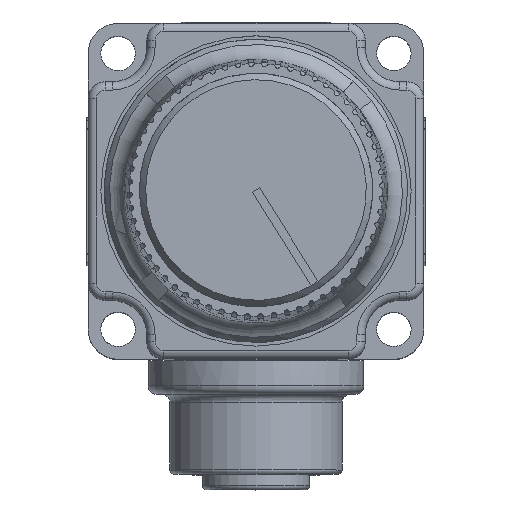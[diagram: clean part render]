
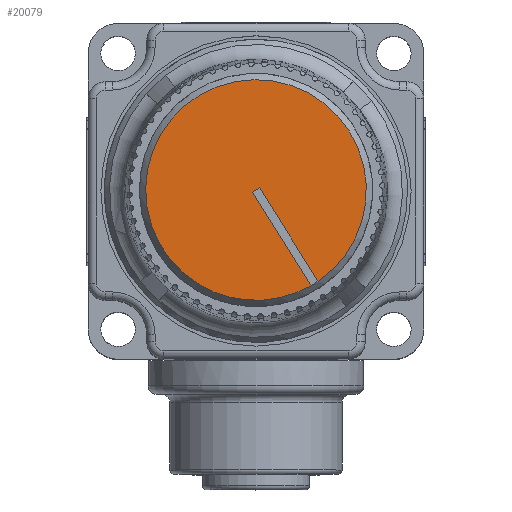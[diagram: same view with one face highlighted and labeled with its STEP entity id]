
A CAD part, top view. The second image highlights one B-rep face of the part: STEP entity #20079.
In plain terms, the highlighted planar face has unit normal (0, 0, 1).
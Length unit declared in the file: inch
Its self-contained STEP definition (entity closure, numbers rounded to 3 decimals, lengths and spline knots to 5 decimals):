
#1189=PLANE('',#21999);
#2077=FACE_OUTER_BOUND('',#3261,.T.);
#3261=EDGE_LOOP('',(#15586,#15587,#15588,#15589,#15590));
#4320=CIRCLE('',#21995,0.4);
#4321=CIRCLE('',#21996,0.4);
#5362=LINE('',#37110,#6782);
#5367=LINE('',#37129,#6787);
#5370=LINE('',#37134,#6790);
#6782=VECTOR('',#26306,0.3937);
#6787=VECTOR('',#26317,0.3937);
#6790=VECTOR('',#26322,0.3937);
#8602=VERTEX_POINT('',#37108);
#8603=VERTEX_POINT('',#37109);
#8606=VERTEX_POINT('',#37122);
#8608=VERTEX_POINT('',#37128);
#8610=VERTEX_POINT('',#37138);
#11040=EDGE_CURVE('',#8602,#8603,#5362,.T.);
#11047=EDGE_CURVE('',#8608,#8606,#5367,.T.);
#11050=EDGE_CURVE('',#8603,#8608,#5370,.T.);
#11052=EDGE_CURVE('',#8606,#8610,#4320,.T.);
#11053=EDGE_CURVE('',#8610,#8602,#4321,.T.);
#15586=ORIENTED_EDGE('',*,*,#11047,.T.);
#15587=ORIENTED_EDGE('',*,*,#11052,.T.);
#15588=ORIENTED_EDGE('',*,*,#11053,.T.);
#15589=ORIENTED_EDGE('',*,*,#11040,.T.);
#15590=ORIENTED_EDGE('',*,*,#11050,.T.);
#20079=ADVANCED_FACE('',(#2077),#1189,.T.);
#21995=AXIS2_PLACEMENT_3D('',#37139,#26328,#26329);
#21996=AXIS2_PLACEMENT_3D('',#37140,#26330,#26331);
#21999=AXIS2_PLACEMENT_3D('',#37146,#26337,#26338);
#26306=DIRECTION('',(-0.532,0.847,0.));
#26317=DIRECTION('',(0.532,-0.847,0.));
#26322=DIRECTION('',(0.847,0.532,0.));
#26328=DIRECTION('center_axis',(0.,0.,1.));
#26329=DIRECTION('ref_axis',(0.847,0.532,0.));
#26330=DIRECTION('center_axis',(0.,0.,1.));
#26331=DIRECTION('ref_axis',(0.847,0.532,0.));
#26337=DIRECTION('center_axis',(0.,0.,1.));
#26338=DIRECTION('ref_axis',(1.,0.,0.));
#37108=CARTESIAN_POINT('',(-2.40782,0.80932,2.50719));
#37109=CARTESIAN_POINT('',(-2.62031,1.14788,2.50719));
#37110=CARTESIAN_POINT('',(-2.40782,0.80932,2.50719));
#37122=CARTESIAN_POINT('',(-2.38241,0.82527,2.50719));
#37128=CARTESIAN_POINT('',(-2.5949,1.16383,2.50719));
#37129=CARTESIAN_POINT('',(-2.5949,1.16383,2.50719));
#37134=CARTESIAN_POINT('',(-2.62031,1.14788,2.50719));
#37138=CARTESIAN_POINT('',(-2.75976,0.78592,2.50719));
#37139=CARTESIAN_POINT('Origin',(-2.6076,1.15585,2.50719));
#37140=CARTESIAN_POINT('Origin',(-2.6076,1.15585,2.50719));
#37146=CARTESIAN_POINT('Origin',(-2.95638,0.94002,2.50719));
